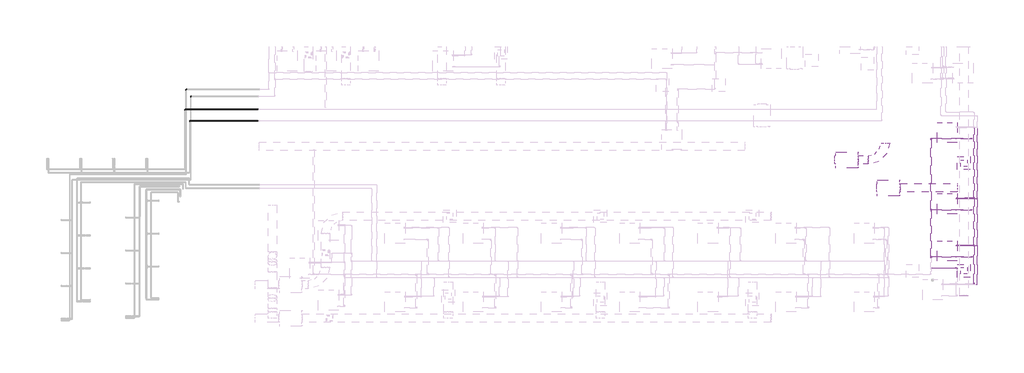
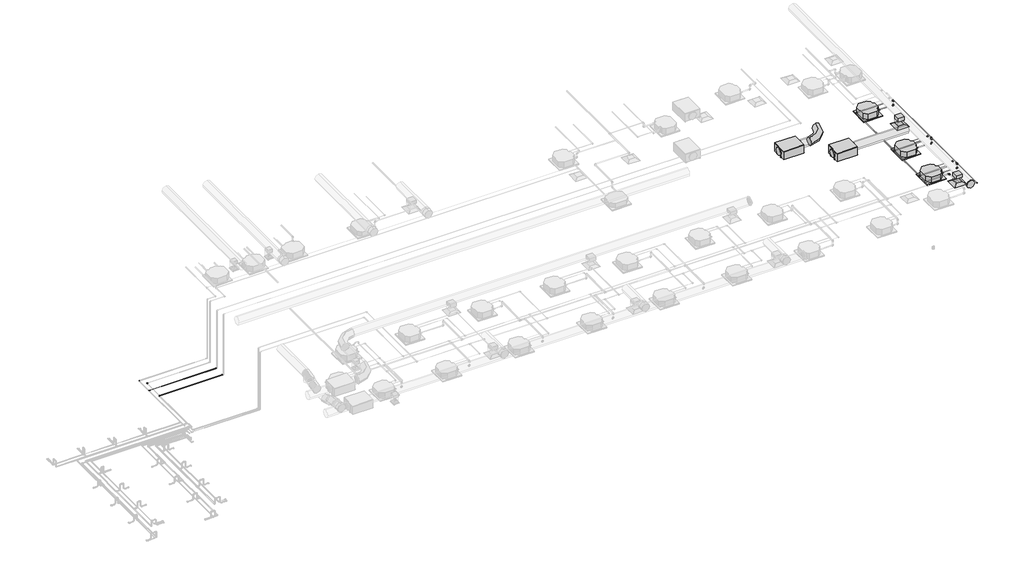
# One storey, part 12 of 22: 30 pipe fittings, 24 pipe segments, 5 proxies, 4 duct fittings, 4 duct segments, 2 air terminals.
"""IFC4 building model written with IfcOpenShell, lengths in millimetres."""

from ifc_helpers import new_model, si_unit, point, frame, frame_2d, origin, place, context, project, spatial, polyline, circle_curve, trimmed, segment, composite_curve, outline, extrude, transform, mapped, element, save
from ifc_brep_helpers import plane_surface, cylinder_surface, advanced_brep
from components import air_terminal_ff221211, mechanical_equipment_53173f38, fh_fh_400_6e0c7af0, duct_fitting_95c1ddea, duct_fitting_2_d_33ab650d, m_capa_de_extremidade_redonda_c14c7098, pipe_fitting_144f4440, pipe_fitting_14eb6376, pipe_fitting_337ff715, pipe_fitting_8af41acb, pipe_fitting_16c020f5, pipe_fitting_0e110a5f, pipe_fitting_afe73776, pipe_fitting_09966660, pipe_fitting_64d0e8e9, pipe_fitting_501e5992, pipe_fitting_648138cd, pipe_fitting_58ab9b66, pipe_fitting_da16c1b3, pipe_fitting_af483176, pipe_fitting_5a6d96d3, pipe_fitting_3e80353c

model = new_model("IFC4")

# Units and contexts
model_context = context("Model", 3, world=origin())
ifc_project = project(units=[si_unit("LENGTHUNIT", "METRE", prefix="MILLI")], contexts=[model_context])

# Site, building, storey
site = spatial("IfcSite", under=ifc_project)
building = spatial("IfcBuilding", under=site)
storey = spatial("IfcBuildingStorey", under=building, Name="Nível 2", Elevation=3880.0)

# Air terminals
placement = place(None, origin())
air_terminal_shape = air_terminal_ff221211(model_context)
element("IfcAirTerminal", 1, ObjectType="M_Difusor de fornecimento : 600 x 600 Face 300 x 300 Conexão", at=placement, inside=storey, context=model_context, shape_type="MappedRepresentation", body=[
    mapped(air_terminal_shape, transform((30114.7064473, -1509.3889752, 6880.0), x_axis=(-1.0, 0.0, 0.0), y_axis=(0.0, -1.0, 0.0), z_axis=(0.0, 0.0, 1.0))),
])
element("IfcAirTerminal", 2, ObjectType="M_Difusor de fornecimento : 600 x 600 Face 300 x 300 Conexão", at=placement, inside=storey, context=model_context, shape_type="MappedRepresentation", body=[
    mapped(air_terminal_shape, transform((30114.7064473, -6543.2709697, 6880.0), x_axis=(-1.0, 0.0, 0.0), y_axis=(0.0, -1.0, 0.0), z_axis=(0.0, 0.0, 1.0))),
])

# Proxies
mechanical_equipment_shape = mechanical_equipment_53173f38(model_context)
element("IfcBuildingElementProxy", 3, Name="Midea_VRF_Indoor_4-way Cassette_MI-90(100,112,140)Q4_DHN1-D (2nd DC) : MI2-140Q4DHN1", ObjectType="Midea_VRF_Indoor_4-way Cassette_MI-90(100,112,140)Q4_DHN1-D (2nd DC) : MI2-140Q4DHN1", at=placement, inside=storey, context=model_context, shape_type="MappedRepresentation", body=[
    mapped(mechanical_equipment_shape, transform((29341.0098465, -77.1631352, 6880.0), x_axis=(1.0, 0.0, 0.0), y_axis=(0.0, 1.0, 0.0), z_axis=(0.0, 0.0, 1.0))),
])
element("IfcBuildingElementProxy", 4, Name="Midea_VRF_Indoor_4-way Cassette_MI-90(100,112,140)Q4_DHN1-D (2nd DC) : MI2-140Q4DHN1", ObjectType="Midea_VRF_Indoor_4-way Cassette_MI-90(100,112,140)Q4_DHN1-D (2nd DC) : MI2-140Q4DHN1", at=placement, inside=storey, context=model_context, shape_type="MappedRepresentation", body=[
    mapped(mechanical_equipment_shape, transform((29341.0098465, -3411.9719758, 6880.0), x_axis=(1.0, 0.0, 0.0), y_axis=(0.0, 1.0, 0.0), z_axis=(0.0, 0.0, 1.0))),
])
element("IfcBuildingElementProxy", 5, Name="Midea_VRF_Indoor_4-way Cassette_MI-90(100,112,140)Q4_DHN1-D (2nd DC) : MI2-140Q4DHN1", ObjectType="Midea_VRF_Indoor_4-way Cassette_MI-90(100,112,140)Q4_DHN1-D (2nd DC) : MI2-140Q4DHN1", at=placement, inside=storey, context=model_context, shape_type="MappedRepresentation", body=[
    mapped(mechanical_equipment_shape, transform((29341.0098465, -5613.3895801, 6880.0), x_axis=(1.0, 0.0, 0.0), y_axis=(0.0, 1.0, 0.0), z_axis=(0.0, 0.0, 1.0))),
])
fh_fh_400_shape = fh_fh_400_6e0c7af0(model_context)
element("IfcBuildingElementProxy", 6, Name="FH : FH 400", ObjectType="FH : FH 400", at=placement, inside=storey, context=model_context, shape_type="MappedRepresentation", body=[
    mapped(fh_fh_400_shape, transform((26591.3682756, -2666.746009, 7280.0), x_axis=(0.0, 1.0, 0.0), y_axis=(-1.0, 0.0, 0.0), z_axis=(0.0, 0.0, 1.0))),
])
element("IfcBuildingElementProxy", 7, Name="FH : FH 400", ObjectType="FH : FH 400", at=placement, inside=storey, context=model_context, shape_type="MappedRepresentation", body=[
    mapped(fh_fh_400_shape, transform((24641.2077756, -1359.3889752, 7280.0), x_axis=(0.0, 1.0, 0.0), y_axis=(-1.0, 0.0, 0.0), z_axis=(0.0, 0.0, 1.0))),
])

# Duct fittings
duct_fitting_shape = duct_fitting_95c1ddea(model_context)
element("IfcDuctFitting", 8, ObjectType="M_Encaixe de duto retangular : Padrão", at=placement, inside=storey, context=model_context, shape_type="MappedRepresentation", body=[
    mapped(duct_fitting_shape, transform((30114.7064473, -1509.3889752, 7301.0), x_axis=(0.0, 0.0, -1.0), y_axis=(0.0, 1.0, 0.0), z_axis=(1.0, 0.0, 0.0))),
])
element("IfcDuctFitting", 9, ObjectType="M_Encaixe de duto retangular : Padrão", at=placement, inside=storey, context=model_context, shape_type="MappedRepresentation", body=[
    mapped(duct_fitting_shape, transform((30114.7064473, -6543.2709697, 7301.0), x_axis=(0.0, 0.0, -1.0), y_axis=(0.0, 1.0, 0.0), z_axis=(1.0, 0.0, 0.0))),
])
duct_fitting_2_d_shape = duct_fitting_2_d_33ab650d(model_context)
element("IfcDuctFitting", 10, ObjectType="M_Cotovelo redondo : 2 D", at=placement, inside=storey, context=model_context, shape_type="MappedRepresentation", body=[
    mapped(duct_fitting_2_d_shape, transform((26448.2077756, -1359.3889752, 7501.0), x_axis=(1.0, 0.0, 0.0), y_axis=(0.0, 1.0, 0.0), z_axis=(0.0, 0.0, 1.0))),
])
m_capa_de_extremidade_redonda_shape = m_capa_de_extremidade_redonda_c14c7098(model_context)
element("IfcDuctFitting", 11, ObjectType="M_Capa de extremidade redonda : Padrão", at=placement, inside=storey, context=model_context, shape_type="MappedRepresentation", body=[
    mapped(m_capa_de_extremidade_redonda_shape, transform((30114.7064473, -7683.3010158, 7501.0), x_axis=(0.0, -1.0, 0.0), y_axis=(1.0, 0.0, 0.0), z_axis=(0.0, 0.0, 1.0))),
])

# Duct segments
element("IfcDuctSegment", 12, ObjectType="Torneiras / Raio curto", at=placement, inside=storey, context=model_context, shape_type="SweptSolid", body=[
    extrude(outline(composite_curve([segment(trimmed(circle_curve(frame_2d((-2666.746009, 7501.0)), 200.0), [point((-2866.746009, 7501.0))], [point((-2666.746009, 7701.0))], False, "CARTESIAN"), True, "CONTINUOUS"), segment(trimmed(circle_curve(frame_2d((-2666.746009, 7501.0)), 200.0), [point((-2666.746009, 7701.0))], [point((-2466.746009, 7501.0))], False, "CARTESIAN"), True, "CONTINUOUS"), segment(trimmed(circle_curve(frame_2d((-2666.746009, 7501.0)), 200.0), [point((-2466.746009, 7501.0))], [point((-2666.746009, 7301.0))], False, "CARTESIAN"), True, "CONTINUOUS"), segment(trimmed(circle_curve(frame_2d((-2666.746009, 7501.0)), 200.0), [point((-2666.746009, 7301.0))], [point((-2866.746009, 7501.0))], False, "CARTESIAN"), True, "CONTINUOUS")], self_intersect=False)), frame((27138.3682756, 0.0, 0.0), z_axis=(1.0, 0.0, 0.0), x_axis=(0.0, 1.0, 0.0)), (0.0, 0.0, 1.0), 2674.7381717),
])
element("IfcDuctSegment", 13, ObjectType="Raios cotovelos / torneiras", at=placement, inside=storey, context=model_context, shape_type="SweptSolid", body=[
    extrude(outline(polyline([(29964.7064473, -1659.3889752), (29964.7064473, -1359.3889752), (30264.7064473, -1359.3889752), (30264.7064473, -1659.3889752), (29964.7064473, -1659.3889752)])), frame((0.0, 0.0, 6981.6), z_axis=(0.0, 0.0, 1.0), x_axis=(1.0, 0.0, 0.0)), (0.0, 0.0, 1.0), 217.8),
])
element("IfcDuctSegment", 14, ObjectType="Raios cotovelos / torneiras", at=placement, inside=storey, context=model_context, shape_type="SweptSolid", body=[
    extrude(outline(polyline([(29964.7064473, -6693.2709697), (29964.7064473, -6393.2709697), (30264.7064473, -6393.2709697), (30264.7064473, -6693.2709697), (29964.7064473, -6693.2709697)])), frame((0.0, 0.0, 6981.6), z_axis=(0.0, 0.0, 1.0), x_axis=(1.0, 0.0, 0.0)), (0.0, 0.0, 1.0), 217.8),
])
element("IfcDuctSegment", 15, ObjectType="Torneiras / Raio curto", at=placement, inside=storey, context=model_context, shape_type="SweptSolid", body=[
    extrude(outline(composite_curve([segment(trimmed(circle_curve(frame_2d((-1359.3889752, 7501.0)), 200.0), [point((-1559.3889752, 7501.0))], [point((-1359.3889752, 7701.0))], False, "CARTESIAN"), True, "CONTINUOUS"), segment(trimmed(circle_curve(frame_2d((-1359.3889752, 7501.0)), 200.0), [point((-1359.3889752, 7701.0))], [point((-1159.3889752, 7501.0))], False, "CARTESIAN"), True, "CONTINUOUS"), segment(trimmed(circle_curve(frame_2d((-1359.3889752, 7501.0)), 200.0), [point((-1159.3889752, 7501.0))], [point((-1359.3889752, 7301.0))], False, "CARTESIAN"), True, "CONTINUOUS"), segment(trimmed(circle_curve(frame_2d((-1359.3889752, 7501.0)), 200.0), [point((-1359.3889752, 7301.0))], [point((-1559.3889752, 7501.0))], False, "CARTESIAN"), True, "CONTINUOUS")], self_intersect=False)), frame((25188.2077756, 0.0, 0.0), z_axis=(1.0, 0.0, 0.0), x_axis=(0.0, 1.0, 0.0)), (0.0, 0.0, 1.0), 460.0),
])

# Pipe fittings
pipe_fitting_shape = pipe_fitting_144f4440(model_context)
element("IfcPipeFitting", 16, ObjectType="Cotovelo - PVC - CW : Padrão", at=placement, inside=storey, context=model_context, shape_type="MappedRepresentation", body=[
    mapped(pipe_fitting_shape, transform((30466.0098464, -362.1631352, 7380.0), x_axis=(0.0, 0.0, 1.0), y_axis=(-1.0, 0.0, 0.0), z_axis=(0.0, -1.0, 0.0))),
])
element("IfcPipeFitting", 17, ObjectType="Cotovelo - PVC - CW : Padrão", at=placement, inside=storey, context=model_context, shape_type="MappedRepresentation", body=[
    mapped(pipe_fitting_shape, transform((28580.398304, -362.1631352, 7380.0), x_axis=(-1.0, 0.0, 0.0), y_axis=(0.0, -1.0, 0.0), z_axis=(0.0, 0.0, 1.0))),
])
element("IfcPipeFitting", 18, ObjectType="Cotovelo - PVC - CW : Padrão", at=placement, inside=storey, context=model_context, shape_type="MappedRepresentation", body=[
    mapped(pipe_fitting_shape, transform((29786.1108591, -6418.2885675, 7380.0), x_axis=(0.0, 1.0, 0.0), y_axis=(-1.0, 0.0, 0.0), z_axis=(0.0, 0.0, 1.0))),
])
element("IfcPipeFitting", 19, ObjectType="Cotovelo - PVC - CW : Padrão", at=placement, inside=storey, context=model_context, shape_type="MappedRepresentation", body=[
    mapped(pipe_fitting_shape, transform((30466.0098464, -3696.9719758, 7380.0), x_axis=(0.0, 0.0, 1.0), y_axis=(-1.0, 0.0, 0.0), z_axis=(0.0, -1.0, 0.0))),
])
element("IfcPipeFitting", 20, ObjectType="Cotovelo - PVC - CW : Padrão", at=placement, inside=storey, context=model_context, shape_type="MappedRepresentation", body=[
    mapped(pipe_fitting_shape, transform((30486.0098464, -5898.3895801, 7380.0), x_axis=(0.0, 0.0, 1.0), y_axis=(-1.0, 0.0, 0.0), z_axis=(0.0, -1.0, 0.0))),
])
pipe_fitting_2_shape = pipe_fitting_14eb6376(model_context)
element("IfcPipeFitting", 21, ObjectType="Tê de redução - PVC - CW : Padrão", at=placement, inside=storey, context=model_context, shape_type="MappedRepresentation", body=[
    mapped(pipe_fitting_2_shape, transform((28580.398304, -3696.9719758, 7380.0), x_axis=(0.0, -1.0, 0.0), y_axis=(-1.0, 0.0, 0.0), z_axis=(0.0, 0.0, -1.0))),
])
element("IfcPipeFitting", 22, ObjectType="Tê de redução - PVC - CW : Padrão", at=placement, inside=storey, context=model_context, shape_type="MappedRepresentation", body=[
    mapped(pipe_fitting_2_shape, transform((28580.398304, -5898.3895801, 7380.0), x_axis=(0.0, -1.0, 0.0), y_axis=(-1.0, 0.0, 0.0), z_axis=(0.0, 0.0, -1.0))),
])
pipe_fitting_3_shape = pipe_fitting_337ff715(model_context)
element("IfcPipeFitting", 23, ObjectType="Cotovelo - PVC - CW : Padrão", at=placement, inside=storey, context=model_context, shape_type="MappedRepresentation", body=[
    mapped(pipe_fitting_3_shape, transform((30466.0098464, -362.1631352, 7132.3), x_axis=(0.9999999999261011, 0.0, -1.2157218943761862e-05), y_axis=(1.2157218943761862e-05, 0.0, 0.9999999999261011), z_axis=(0.0, -1.0, 0.0))),
])
element("IfcPipeFitting", 24, ObjectType="Cotovelo - PVC - CW : Padrão", at=placement, inside=storey, context=model_context, shape_type="MappedRepresentation", body=[
    mapped(pipe_fitting_3_shape, transform((30466.0098464, -3696.9719758, 7132.3), x_axis=(0.9999999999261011, 0.0, -1.2157218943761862e-05), y_axis=(1.2157218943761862e-05, 0.0, 0.9999999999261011), z_axis=(0.0, -1.0, 0.0))),
])
pipe_fitting_4_shape = pipe_fitting_8af41acb(model_context)
element("IfcPipeFitting", 25, ObjectType="Cotovelo - PVC - CW : Padrão", at=placement, inside=storey, context=model_context, shape_type="MappedRepresentation", body=[
    mapped(pipe_fitting_4_shape, transform((30486.0098464, -5898.3895801, 7132.3), x_axis=(0.9999999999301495, 0.0, -1.181951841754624e-05), y_axis=(1.181951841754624e-05, 0.0, 0.9999999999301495), z_axis=(0.0, -1.0, 0.0))),
])
pipe_fitting_5_shape = pipe_fitting_16c020f5(model_context)
element("IfcPipeFitting", 26, ObjectType="Cotovelo - Soldado - CU : Padrão", at=placement, inside=storey, context=model_context, shape_type="MappedRepresentation", body=[
    mapped(pipe_fitting_5_shape, transform((30586.1108591, -7160.0777538, 7132.3), x_axis=(0.9999999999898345, 0.0, -4.509017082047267e-06), y_axis=(0.0, 1.0000000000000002, 0.0), z_axis=(4.509017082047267e-06, 0.0, 0.9999999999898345))),
])
pipe_fitting_6_shape = pipe_fitting_0e110a5f(model_context)
element("IfcPipeFitting", 27, ObjectType="Cotovelo - Soldado - CU : Padrão", at=placement, inside=storey, context=model_context, shape_type="MappedRepresentation", body=[
    mapped(pipe_fitting_6_shape, transform((-6053.8891409, 473.4586233, 3918.9), x_axis=(-1.0, 0.0, 0.0), y_axis=(0.0, -1.0, 0.0), z_axis=(0.0, 0.0, 1.0))),
])
element("IfcPipeFitting", 28, ObjectType="Cotovelo - Soldado - CU : Padrão", at=placement, inside=storey, context=model_context, shape_type="MappedRepresentation", body=[
    mapped(pipe_fitting_6_shape, transform((-6008.3914151, 1620.03247, 3880.0), x_axis=(-1.0, 0.0, 0.0), y_axis=(0.0, -1.0, 0.0), z_axis=(0.0, 0.0, 1.0))),
])
pipe_fitting_7_shape = pipe_fitting_afe73776(model_context)
element("IfcPipeFitting", 29, ObjectType="Bucha de redução reta - Soldada - CU : Padrão", at=placement, inside=storey, context=model_context, shape_type="MappedRepresentation", body=[
    mapped(pipe_fitting_7_shape, transform((30555.9503588, -3138.7611622, 7132.2872892), x_axis=(-0.9999999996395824, 0.0, 2.68483792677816e-05), y_axis=(0.0, -1.0000000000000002, 0.0), z_axis=(2.68483792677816e-05, 0.0, 0.9999999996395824))),
])
element("IfcPipeFitting", 30, ObjectType="Bucha de redução reta - Soldada - CU : Padrão", at=placement, inside=storey, context=model_context, shape_type="MappedRepresentation", body=[
    mapped(pipe_fitting_7_shape, transform((30555.9503592, -5340.1787665, 7132.3008098), x_axis=(-0.9999999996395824, 0.0, 2.68483792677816e-05), y_axis=(0.0, -1.0000000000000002, 0.0), z_axis=(2.68483792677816e-05, 0.0, 0.9999999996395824))),
])
pipe_fitting_8_shape = pipe_fitting_09966660(model_context)
element("IfcPipeFitting", 31, ObjectType="Tê - Soldado - CU : Padrão", at=placement, inside=storey, context=model_context, shape_type="MappedRepresentation", body=[
    mapped(pipe_fitting_8_shape, transform((30586.1108588, -3138.7611622, 7132.2864794), x_axis=(0.0, -1.0, 0.0), y_axis=(0.9999999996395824, 0.0, -2.68483792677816e-05), z_axis=(2.68483792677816e-05, 0.0, 0.9999999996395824))),
])
element("IfcPipeFitting", 32, ObjectType="Tê - Soldado - CU : Padrão", at=placement, inside=storey, context=model_context, shape_type="MappedRepresentation", body=[
    mapped(pipe_fitting_8_shape, transform((30586.1108591, -5340.1787665, 7132.3), x_axis=(0.0, -1.0, 0.0), y_axis=(0.9999999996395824, 0.0, -2.68483792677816e-05), z_axis=(2.68483792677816e-05, 0.0, 0.9999999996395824))),
])
pipe_fitting_9_shape = pipe_fitting_64d0e8e9(model_context)
element("IfcPipeFitting", 33, ObjectType="Bucha de redução reta - Soldada - CU : Padrão", at=placement, inside=storey, context=model_context, shape_type="MappedRepresentation", body=[
    mapped(pipe_fitting_9_shape, transform((30586.1108591, -7131.0991538, 7132.3), x_axis=(0.0, 1.0, 0.0), y_axis=(-0.9999999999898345, 0.0, 4.509017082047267e-06), z_axis=(4.509017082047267e-06, 0.0, 0.9999999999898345))),
])
pipe_fitting_10_shape = pipe_fitting_501e5992(model_context)
element("IfcPipeFitting", 34, ObjectType="Bucha de redução reta - Soldada - CU : Padrão", at=placement, inside=storey, context=model_context, shape_type="MappedRepresentation", body=[
    mapped(pipe_fitting_10_shape, transform((29778.6687465, -3138.7611622, 7132.3081579), x_axis=(-0.9999999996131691, 0.0, 2.7814777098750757e-05), y_axis=(0.0, -1.0, 0.0), z_axis=(2.7814777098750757e-05, 0.0, 0.9999999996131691))),
])
element("IfcPipeFitting", 35, ObjectType="Bucha de redução reta - Soldada - CU : Padrão", at=placement, inside=storey, context=model_context, shape_type="MappedRepresentation", body=[
    mapped(pipe_fitting_10_shape, transform((29778.6687465, -5340.1787665, 7132.3081579), x_axis=(-0.9999999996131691, 0.0, 2.7814777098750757e-05), y_axis=(0.0, -1.0, 0.0), z_axis=(2.7814777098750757e-05, 0.0, 0.9999999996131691))),
])
pipe_fitting_11_shape = pipe_fitting_648138cd(model_context)
element("IfcPipeFitting", 36, ObjectType="Cotovelo - Soldado - CU : Padrão", at=placement, inside=storey, context=model_context, shape_type="MappedRepresentation", body=[
    mapped(pipe_fitting_11_shape, transform((30746.1108592, -7193.8801956, 7026.8446487), x_axis=(1.0, 0.0, 0.0), y_axis=(0.0, 1.0, 0.0), z_axis=(0.0, 0.0, 1.0))),
])
pipe_fitting_12_shape = pipe_fitting_58ab9b66(model_context)
element("IfcPipeFitting", 37, ObjectType="Bucha de redução reta - Soldada - CU : Padrão", at=placement, inside=storey, context=model_context, shape_type="MappedRepresentation", body=[
    mapped(pipe_fitting_12_shape, transform((29775.6842465, -5373.9812083, 7026.8446487), x_axis=(-1.0, 0.0, 0.0), y_axis=(0.0, -1.0, 0.0), z_axis=(0.0, 0.0, 1.0))),
])
element("IfcPipeFitting", 38, ObjectType="Bucha de redução reta - Soldada - CU : Padrão", at=placement, inside=storey, context=model_context, shape_type="MappedRepresentation", body=[
    mapped(pipe_fitting_12_shape, transform((29775.6842465, -3172.563604, 7026.8446487), x_axis=(-1.0, 0.0, 0.0), y_axis=(0.0, -1.0, 0.0), z_axis=(0.0, 0.0, 1.0))),
])
pipe_fitting_13_shape = pipe_fitting_da16c1b3(model_context)
element("IfcPipeFitting", 39, ObjectType="Tê - Soldado - CU : Padrão", at=placement, inside=storey, context=model_context, shape_type="MappedRepresentation", body=[
    mapped(pipe_fitting_13_shape, transform((30746.1108592, -5373.9812083, 7026.8446487), x_axis=(0.0, -1.0, 0.0), y_axis=(1.0, 0.0, 0.0), z_axis=(0.0, 0.0, 1.0))),
])
element("IfcPipeFitting", 40, ObjectType="Tê - Soldado - CU : Padrão", at=placement, inside=storey, context=model_context, shape_type="MappedRepresentation", body=[
    mapped(pipe_fitting_13_shape, transform((30746.1108592, -3172.563604, 7026.8446487), x_axis=(0.0, -1.0, 0.0), y_axis=(1.0, 0.0, 0.0), z_axis=(0.0, 0.0, 1.0))),
])
pipe_fitting_14_shape = pipe_fitting_af483176(model_context)
element("IfcPipeFitting", 41, ObjectType="Bucha de redução reta - Soldada - CU : Padrão", at=placement, inside=storey, context=model_context, shape_type="MappedRepresentation", body=[
    mapped(pipe_fitting_14_shape, transform((30746.1108592, -7169.8545956, 7026.8446487), x_axis=(0.0, 1.0, 0.0), y_axis=(-1.0, 0.0, 0.0), z_axis=(0.0, 0.0, 1.0))),
])
pipe_fitting_15_shape = pipe_fitting_5a6d96d3(model_context)
element("IfcPipeFitting", 42, ObjectType="Bucha de redução reta - Soldada - CU : Padrão", at=placement, inside=storey, context=model_context, shape_type="MappedRepresentation", body=[
    mapped(pipe_fitting_15_shape, transform((30721.0938592, -5373.9812083, 7026.8446487), x_axis=(-1.0, 0.0, 0.0), y_axis=(0.0, -1.0, 0.0), z_axis=(0.0, 0.0, 1.0))),
])
element("IfcPipeFitting", 43, ObjectType="Bucha de redução reta - Soldada - CU : Padrão", at=placement, inside=storey, context=model_context, shape_type="MappedRepresentation", body=[
    mapped(pipe_fitting_15_shape, transform((30721.0938592, -3172.563604, 7026.8446487), x_axis=(-1.0, 0.0, 0.0), y_axis=(0.0, -1.0, 0.0), z_axis=(0.0, 0.0, 1.0))),
])
pipe_fitting_16_shape = pipe_fitting_3e80353c(model_context)
element("IfcPipeFitting", 44, ObjectType="Cotovelo - Soldado - CU : Padrão", at=placement, inside=storey, context=model_context, shape_type="MappedRepresentation", body=[
    mapped(pipe_fitting_16_shape, transform((-6278.8891408, 1004.7679315, 3954.6), x_axis=(-1.0, 0.0, 0.0), y_axis=(0.0, -1.0, 0.0), z_axis=(0.0, 0.0, 1.0))),
])
element("IfcPipeFitting", 45, ObjectType="Cotovelo - Soldado - CU : Padrão", at=placement, inside=storey, context=model_context, shape_type="MappedRepresentation", body=[
    mapped(pipe_fitting_16_shape, transform((-6224.6914695, 1943.0785153, 3880.0), x_axis=(-1.0, 0.0, 0.0), y_axis=(0.0, -1.0, 0.0), z_axis=(0.0, 0.0, 1.0))),
])

# Pipe segments
element("IfcPipeSegment", 46, ObjectType="Tubos de cobre HVAC", at=placement, inside=storey, context=model_context, shape_type="AdvancedBrep", body=[
    advanced_brep(
    [(30595.6358588, -3108.5659122, 7132.2864794), (30586.1108588, -3108.5659515, 7141.8114794), (30576.5858588, -3108.5659122, 7132.2864794), (30586.1108588, -3108.5658728, 7122.7614794), (30595.6358591, 165.8524284, 7132.3), (30586.1108591, 165.8524678, 7122.775), (30576.5858591, 165.8524284, 7132.3), (30586.1108591, 165.8523891, 7141.825)],
    [
        (0, 1, circle_curve(frame((30586.1108588, -3108.5659122, 7132.2864794), z_axis=(0.0, -0.999999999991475, -4.129149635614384e-06), x_axis=(1.0, 0.0, 0.0)), 9.525)),
        (1, 2, circle_curve(frame((30586.1108588, -3108.5659122, 7132.2864794), z_axis=(0.0, -0.999999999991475, -4.129149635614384e-06), x_axis=(1.0, 0.0, 0.0)), 9.525)),
        (2, 3, circle_curve(frame((30586.1108588, -3108.5659122, 7132.2864794), z_axis=(0.0, -0.999999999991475, -4.129149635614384e-06), x_axis=(1.0, 0.0, 0.0)), 9.525)),
        (3, 0, circle_curve(frame((30586.1108588, -3108.5659122, 7132.2864794), z_axis=(0.0, -0.999999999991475, -4.129149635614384e-06), x_axis=(1.0, 0.0, 0.0)), 9.525)),
        (4, 5, circle_curve(frame((30586.1108588, 165.8524284, 7132.3), z_axis=(0.0, 0.999999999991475, 4.129149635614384e-06), x_axis=(1.0, 0.0, 0.0)), 9.5250004)),
        (5, 6, circle_curve(frame((30586.1108588, 165.8524284, 7132.3), z_axis=(0.0, 0.999999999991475, 4.129149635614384e-06), x_axis=(1.0, 0.0, 0.0)), 9.525)),
        (6, 7, circle_curve(frame((30586.1108588, 165.8524284, 7132.3), z_axis=(0.0, 0.999999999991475, 4.129149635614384e-06), x_axis=(1.0, 0.0, 0.0)), 9.5249996)),
        (7, 4, circle_curve(frame((30586.1108588, 165.8524284, 7132.3), z_axis=(0.0, 0.999999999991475, 4.129149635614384e-06), x_axis=(1.0, 0.0, 0.0)), 9.525)),
        (0, 4),
        (7, 1),
        (6, 2),
        (5, 3),
    ],
    [
        plane_surface(frame((30576.5858588, -3108.5659122, 7132.2864794), z_axis=(-1.1087308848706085e-10, -0.999999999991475, -4.129149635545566e-06), x_axis=(0.0, -4.129149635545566e-06, 0.999999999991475))),
        plane_surface(frame((30576.5858591, 165.8524284, 7132.3), z_axis=(1.1086065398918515e-10, 0.999999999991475, 4.129149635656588e-06), x_axis=(0.0, -4.129149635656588e-06, 0.999999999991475))),
        cylinder_surface(frame((30586.1108588, -3108.5659122, 7132.2864794), z_axis=(0.0, -0.999999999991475, -4.129149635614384e-06), x_axis=(1.0, 0.0, 0.0)), 9.525),
    ],
    [
        (0, [[1, 2, 3, 4]]),
        (1, [[5, 6, 7, 8]]),
        (2, [[-1, 9, -8, 10]]),
        (2, [[-2, -10, -7, 11]]),
        (2, [[-3, -11, -6, 12]]),
        (2, [[-4, -12, -5, -9]]),
    ],
),
])
element("IfcPipeSegment", 47, ObjectType="Tubos de cobre HVAC", at=placement, inside=storey, context=model_context, shape_type="SweptSolid", body=[
    extrude(outline(composite_curve([segment(trimmed(circle_curve(frame_2d((0.0, 7.935)), 7.935), [point((-7.935, 7.935))], [point((0.0, 15.87))], False, "CARTESIAN"), True, "CONTINUOUS"), segment(trimmed(circle_curve(frame_2d((0.0, 7.935)), 7.935), [point((0.0, 15.87))], [point((7.935, 7.935))], False, "CARTESIAN"), True, "CONTINUOUS"), segment(trimmed(circle_curve(frame_2d((0.0, 7.935)), 7.935), [point((7.935, 7.935))], [point((0.0, 0.0))], False, "CARTESIAN"), True, "CONTINUOUS"), segment(trimmed(circle_curve(frame_2d((0.0, 7.935)), 7.935), [point((0.0, 0.0))], [point((-7.935, 7.935))], False, "CARTESIAN"), True, "CONTINUOUS")], self_intersect=False)), frame((30543.2912458, -3138.7611622, 7124.3526291), z_axis=(-0.9999999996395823, 0.0, 2.6848379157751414e-05), x_axis=(0.0, -1.0, 0.0)), (0.0, 0.0, 1.0), 764.6227126),
])
element("IfcPipeSegment", 48, ObjectType="Tubos de cobre HVAC", at=placement, inside=storey, context=model_context, shape_type="AdvancedBrep", body=[
    advanced_brep(
    [(30595.6358591, -5309.9835165, 7132.3), (30586.1108591, -5309.9834563, 7141.825), (30576.5858591, -5309.9835165, 7132.3), (30586.1108591, -5309.9835766, 7122.775), (30595.6358588, -3168.9564122, 7132.2864794), (30586.1108588, -3168.9564723, 7122.7614794), (30576.5858588, -3168.9564122, 7132.2864794), (30586.1108588, -3168.956352, 7141.8114794)],
    [
        (0, 1, circle_curve(frame((30586.1108591, -5309.9835165, 7132.3), z_axis=(0.0, -0.9999999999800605, 6.314989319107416e-06), x_axis=(1.0, 0.0, 0.0)), 9.525)),
        (1, 2, circle_curve(frame((30586.1108591, -5309.9835165, 7132.3), z_axis=(0.0, -0.9999999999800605, 6.314989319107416e-06), x_axis=(1.0, 0.0, 0.0)), 9.525)),
        (2, 3, circle_curve(frame((30586.1108591, -5309.9835165, 7132.3), z_axis=(0.0, -0.9999999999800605, 6.314989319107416e-06), x_axis=(1.0, 0.0, 0.0)), 9.525)),
        (3, 0, circle_curve(frame((30586.1108591, -5309.9835165, 7132.3), z_axis=(0.0, -0.9999999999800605, 6.314989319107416e-06), x_axis=(1.0, 0.0, 0.0)), 9.525)),
        (4, 5, circle_curve(frame((30586.1108591, -3168.9564122, 7132.2864794), z_axis=(0.0, 0.9999999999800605, -6.314989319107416e-06), x_axis=(1.0, 0.0, 0.0)), 9.5249996)),
        (5, 6, circle_curve(frame((30586.1108591, -3168.9564122, 7132.2864794), z_axis=(0.0, 0.9999999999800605, -6.314989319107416e-06), x_axis=(1.0, 0.0, 0.0)), 9.525)),
        (6, 7, circle_curve(frame((30586.1108591, -3168.9564122, 7132.2864794), z_axis=(0.0, 0.9999999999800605, -6.314989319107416e-06), x_axis=(1.0, 0.0, 0.0)), 9.5250004)),
        (7, 4, circle_curve(frame((30586.1108591, -3168.9564122, 7132.2864794), z_axis=(0.0, 0.9999999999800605, -6.314989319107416e-06), x_axis=(1.0, 0.0, 0.0)), 9.525)),
        (0, 4),
        (7, 1),
        (6, 2),
        (5, 3),
    ],
    [
        plane_surface(frame((30576.5858591, -5309.9835165, 7132.3), z_axis=(1.6956391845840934e-10, -0.9999999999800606, 6.3149893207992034e-06), x_axis=(0.0, 6.3149893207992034e-06, 0.9999999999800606))),
        plane_surface(frame((30576.5858588, -3168.9564122, 7132.2864794), z_axis=(-1.695354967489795e-10, 0.9999999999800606, -6.314989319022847e-06), x_axis=(0.0, 6.314989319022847e-06, 0.9999999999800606))),
        cylinder_surface(frame((30586.1108591, -5309.9835165, 7132.3), z_axis=(0.0, -0.9999999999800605, 6.314989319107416e-06), x_axis=(1.0, 0.0, 0.0)), 9.525),
    ],
    [
        (0, [[1, 2, 3, 4]]),
        (1, [[5, 6, 7, 8]]),
        (2, [[-1, 9, -8, 10]]),
        (2, [[-2, -10, -7, 11]]),
        (2, [[-3, -11, -6, 12]]),
        (2, [[-4, -12, -5, -9]]),
    ],
),
])
element("IfcPipeSegment", 49, ObjectType="Tubos de cobre HVAC", at=placement, inside=storey, context=model_context, shape_type="SweptSolid", body=[
    extrude(outline(composite_curve([segment(trimmed(circle_curve(frame_2d((0.0, 7.935)), 7.935), [point((-7.935, 7.935))], [point((0.0, 15.87))], False, "CARTESIAN"), True, "CONTINUOUS"), segment(trimmed(circle_curve(frame_2d((0.0, 7.935)), 7.935), [point((0.0, 15.87))], [point((7.935, 7.935))], False, "CARTESIAN"), True, "CONTINUOUS"), segment(trimmed(circle_curve(frame_2d((0.0, 7.935)), 7.935), [point((7.935, 7.935))], [point((0.0, 0.0))], False, "CARTESIAN"), True, "CONTINUOUS"), segment(trimmed(circle_curve(frame_2d((0.0, 7.935)), 7.935), [point((0.0, 0.0))], [point((-7.935, 7.935))], False, "CARTESIAN"), True, "CONTINUOUS")], self_intersect=False)), frame((30543.2913864, -5340.1787665, 7124.3661496), z_axis=(-0.9999999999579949, 0.0, 9.165719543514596e-06), x_axis=(0.0, -1.0, 0.0)), (0.0, 0.0, 1.0), 764.6227127),
])
element("IfcPipeSegment", 50, ObjectType="Tubos de cobre HVAC", at=placement, inside=storey, context=model_context, shape_type="SweptSolid", body=[
    extrude(outline(composite_curve([segment(trimmed(circle_curve(frame_2d((7132.3, 30586.1108591)), 9.525), [point((7132.3, 30595.6358591))], [point((7141.825, 30586.1108591))], False, "CARTESIAN"), True, "CONTINUOUS"), segment(trimmed(circle_curve(frame_2d((7132.3, 30586.1108591)), 9.525), [point((7141.825, 30586.1108591))], [point((7132.3, 30576.5858591))], False, "CARTESIAN"), True, "CONTINUOUS"), segment(trimmed(circle_curve(frame_2d((7132.3, 30586.1108591)), 9.525), [point((7132.3, 30576.5858591))], [point((7122.775, 30586.1108591))], False, "CARTESIAN"), True, "CONTINUOUS"), segment(trimmed(circle_curve(frame_2d((7132.3, 30586.1108591)), 9.525), [point((7122.775, 30586.1108591))], [point((7132.3, 30595.6358591))], False, "CARTESIAN"), True, "CONTINUOUS")], self_intersect=False)), frame((0.0, -7118.4402538, 0.0), z_axis=(0.0, 1.0, 0.0), x_axis=(0.0, 0.0, 1.0)), (0.0, 0.0, 1.0), 1748.0662373),
])
element("IfcPipeSegment", 51, ObjectType="Tubos de cobre HVAC", at=placement, inside=storey, context=model_context, shape_type="SweptSolid", body=[
    extrude(outline(composite_curve([segment(trimmed(circle_curve(frame_2d((-5373.9812083, 7026.8446487)), 4.76), [point((-5369.2212083, 7026.8446487))], [point((-5373.9812083, 7022.0846487))], False, "CARTESIAN"), True, "CONTINUOUS"), segment(trimmed(circle_curve(frame_2d((-5373.9812083, 7026.8446487)), 4.76), [point((-5373.9812083, 7022.0846487))], [point((-5378.7412083, 7026.8446487))], False, "CARTESIAN"), True, "CONTINUOUS"), segment(trimmed(circle_curve(frame_2d((-5373.9812083, 7026.8446487)), 4.76), [point((-5378.7412083, 7026.8446487))], [point((-5373.9812083, 7031.6046487))], False, "CARTESIAN"), True, "CONTINUOUS"), segment(trimmed(circle_curve(frame_2d((-5373.9812083, 7026.8446487)), 4.76), [point((-5373.9812083, 7031.6046487))], [point((-5369.2212083, 7026.8446487))], False, "CARTESIAN"), True, "CONTINUOUS")], self_intersect=False)), frame((29775.6842465, 0.0, 0.0), z_axis=(1.0, 0.0, 0.0), x_axis=(0.0, 1.0, 0.0)), (0.0, 0.0, 1.0), 935.7352127),
])
element("IfcPipeSegment", 52, ObjectType="Tubos de cobre HVAC", at=placement, inside=storey, context=model_context, shape_type="SweptSolid", body=[
    extrude(outline(composite_curve([segment(trimmed(circle_curve(frame_2d((7026.8446487, 30746.1108592)), 6.35), [point((7026.8446487, 30752.4608592))], [point((7033.1946487, 30746.1108592))], False, "CARTESIAN"), True, "CONTINUOUS"), segment(trimmed(circle_curve(frame_2d((7026.8446487, 30746.1108592)), 6.35), [point((7033.1946487, 30746.1108592))], [point((7026.8446487, 30739.7608592))], False, "CARTESIAN"), True, "CONTINUOUS"), segment(trimmed(circle_curve(frame_2d((7026.8446487, 30746.1108592)), 6.35), [point((7026.8446487, 30739.7608592))], [point((7020.4946487, 30746.1108592))], False, "CARTESIAN"), True, "CONTINUOUS"), segment(trimmed(circle_curve(frame_2d((7026.8446487, 30746.1108592)), 6.35), [point((7020.4946487, 30746.1108592))], [point((7026.8446487, 30752.4608592))], False, "CARTESIAN"), True, "CONTINUOUS")], self_intersect=False)), frame((0.0, -7160.1801956, 0.0), z_axis=(0.0, 1.0, 0.0), x_axis=(0.0, 0.0, 1.0)), (0.0, 0.0, 1.0), 1761.1154873),
])
element("IfcPipeSegment", 53, ObjectType="Tubos de cobre HVAC", at=placement, inside=storey, context=model_context, shape_type="SweptSolid", body=[
    extrude(outline(composite_curve([segment(trimmed(circle_curve(frame_2d((-3172.563604, 7026.8446487)), 4.76), [point((-3167.803604, 7026.8446487))], [point((-3172.563604, 7022.0846487))], False, "CARTESIAN"), True, "CONTINUOUS"), segment(trimmed(circle_curve(frame_2d((-3172.563604, 7026.8446487)), 4.76), [point((-3172.563604, 7022.0846487))], [point((-3177.323604, 7026.8446487))], False, "CARTESIAN"), True, "CONTINUOUS"), segment(trimmed(circle_curve(frame_2d((-3172.563604, 7026.8446487)), 4.76), [point((-3177.323604, 7026.8446487))], [point((-3172.563604, 7031.6046487))], False, "CARTESIAN"), True, "CONTINUOUS"), segment(trimmed(circle_curve(frame_2d((-3172.563604, 7026.8446487)), 4.76), [point((-3172.563604, 7031.6046487))], [point((-3167.803604, 7026.8446487))], False, "CARTESIAN"), True, "CONTINUOUS")], self_intersect=False)), frame((29775.6842465, 0.0, 0.0), z_axis=(1.0, 0.0, 0.0), x_axis=(0.0, 1.0, 0.0)), (0.0, 0.0, 1.0), 935.7352127),
])
element("IfcPipeSegment", 54, ObjectType="Tubos de cobre HVAC", at=placement, inside=storey, context=model_context, shape_type="SweptSolid", body=[
    extrude(outline(composite_curve([segment(trimmed(circle_curve(frame_2d((7026.8446487, 30746.1108592)), 6.35), [point((7026.8446487, 30752.4608592))], [point((7033.1946487, 30746.1108592))], False, "CARTESIAN"), True, "CONTINUOUS"), segment(trimmed(circle_curve(frame_2d((7026.8446487, 30746.1108592)), 6.35), [point((7033.1946487, 30746.1108592))], [point((7026.8446487, 30739.7608592))], False, "CARTESIAN"), True, "CONTINUOUS"), segment(trimmed(circle_curve(frame_2d((7026.8446487, 30746.1108592)), 6.35), [point((7026.8446487, 30739.7608592))], [point((7020.4946487, 30746.1108592))], False, "CARTESIAN"), True, "CONTINUOUS"), segment(trimmed(circle_curve(frame_2d((7026.8446487, 30746.1108592)), 6.35), [point((7020.4946487, 30746.1108592))], [point((7026.8446487, 30752.4608592))], False, "CARTESIAN"), True, "CONTINUOUS")], self_intersect=False)), frame((0.0, -5348.8977083, 0.0), z_axis=(0.0, 1.0, 0.0), x_axis=(0.0, 0.0, 1.0)), (0.0, 0.0, 1.0), 2151.2506043),
])
element("IfcPipeSegment", 55, ObjectType="Tubos de cobre HVAC", at=placement, inside=storey, context=model_context, shape_type="SweptSolid", body=[
    extrude(outline(composite_curve([segment(trimmed(circle_curve(frame_2d((7026.8446487, 30746.1108592)), 6.35), [point((7026.8446487, 30752.4608592))], [point((7033.1946487, 30746.1108592))], False, "CARTESIAN"), True, "CONTINUOUS"), segment(trimmed(circle_curve(frame_2d((7026.8446487, 30746.1108592)), 6.35), [point((7033.1946487, 30746.1108592))], [point((7026.8446487, 30739.7608592))], False, "CARTESIAN"), True, "CONTINUOUS"), segment(trimmed(circle_curve(frame_2d((7026.8446487, 30746.1108592)), 6.35), [point((7026.8446487, 30739.7608592))], [point((7020.4946487, 30746.1108592))], False, "CARTESIAN"), True, "CONTINUOUS"), segment(trimmed(circle_curve(frame_2d((7026.8446487, 30746.1108592)), 6.35), [point((7020.4946487, 30746.1108592))], [point((7026.8446487, 30752.4608592))], False, "CARTESIAN"), True, "CONTINUOUS")], self_intersect=False)), frame((0.0, -3147.480104, 0.0), z_axis=(0.0, 1.0, 0.0), x_axis=(0.0, 0.0, 1.0)), (0.0, 0.0, 1.0), 3284.6418406),
])
element("IfcPipeSegment", 56, ObjectType="Tubos de cobre HVAC", at=placement, inside=storey, context=model_context, shape_type="SweptSolid", body=[
    extrude(outline(composite_curve([segment(trimmed(circle_curve(frame_2d((473.4586233, 3918.9)), 9.525), [point((482.9836233, 3918.9))], [point((473.4586233, 3909.375))], False, "CARTESIAN"), True, "CONTINUOUS"), segment(trimmed(circle_curve(frame_2d((473.4586233, 3918.9)), 9.525), [point((473.4586233, 3909.375))], [point((463.9336233, 3918.9))], False, "CARTESIAN"), True, "CONTINUOUS"), segment(trimmed(circle_curve(frame_2d((473.4586233, 3918.9)), 9.525), [point((463.9336233, 3918.9))], [point((473.4586233, 3928.425))], False, "CARTESIAN"), True, "CONTINUOUS"), segment(trimmed(circle_curve(frame_2d((473.4586233, 3918.9)), 9.525), [point((473.4586233, 3928.425))], [point((482.9836233, 3918.9))], False, "CARTESIAN"), True, "CONTINUOUS")], self_intersect=False)), frame((-6022.4301409, 0.0, 0.0), z_axis=(1.0, 0.0, 0.0), x_axis=(0.0, 1.0, 0.0)), (0.0, 0.0, 1.0), 3177.082),
])
element("IfcPipeSegment", 57, ObjectType="Tubos de cobre HVAC", at=placement, inside=storey, context=model_context, shape_type="SweptSolid", body=[
    extrude(outline(composite_curve([segment(trimmed(circle_curve(frame_2d((1004.7679315, 3954.6)), 6.35), [point((1011.1179315, 3954.6))], [point((1004.7679315, 3948.25))], False, "CARTESIAN"), True, "CONTINUOUS"), segment(trimmed(circle_curve(frame_2d((1004.7679315, 3954.6)), 6.35), [point((1004.7679315, 3948.25))], [point((998.4179315, 3954.6))], False, "CARTESIAN"), True, "CONTINUOUS"), segment(trimmed(circle_curve(frame_2d((1004.7679315, 3954.6)), 6.35), [point((998.4179315, 3954.6))], [point((1004.7679315, 3960.95))], False, "CARTESIAN"), True, "CONTINUOUS"), segment(trimmed(circle_curve(frame_2d((1004.7679315, 3954.6)), 6.35), [point((1004.7679315, 3960.95))], [point((1011.1179315, 3954.6))], False, "CARTESIAN"), True, "CONTINUOUS")], self_intersect=False)), frame((-6252.3831408, 0.0, 0.0), z_axis=(1.0, 0.0, 0.0), x_axis=(0.0, 1.0, 0.0)), (0.0, 0.0, 1.0), 3391.988),
])
element("IfcPipeSegment", 58, ObjectType="Plástico", at=placement, inside=storey, context=model_context, shape_type="SweptSolid", body=[
    extrude(outline(composite_curve([segment(trimmed(circle_curve(frame_2d((7380.0, 28580.398304)), 20.0), [point((7380.0, 28600.398304))], [point((7400.0, 28580.398304))], False, "CARTESIAN"), True, "CONTINUOUS"), segment(trimmed(circle_curve(frame_2d((7380.0, 28580.398304)), 20.0), [point((7400.0, 28580.398304))], [point((7380.0, 28560.398304))], False, "CARTESIAN"), True, "CONTINUOUS"), segment(trimmed(circle_curve(frame_2d((7380.0, 28580.398304)), 20.0), [point((7380.0, 28560.398304))], [point((7360.0, 28580.398304))], False, "CARTESIAN"), True, "CONTINUOUS"), segment(trimmed(circle_curve(frame_2d((7380.0, 28580.398304)), 20.0), [point((7360.0, 28580.398304))], [point((7380.0, 28600.398304))], False, "CARTESIAN"), True, "CONTINUOUS")], self_intersect=False)), frame((0.0, -3653.7219758, 0.0), z_axis=(0.0, 1.0, 0.0), x_axis=(0.0, 0.0, 1.0)), (0.0, 0.0, 1.0), 3246.5588406),
])
element("IfcPipeSegment", 59, ObjectType="Plástico", at=placement, inside=storey, context=model_context, shape_type="SweptSolid", body=[
    extrude(outline(composite_curve([segment(trimmed(circle_curve(frame_2d((0.0, -20.0)), 20.0), [point((-20.0, -20.0))], [point((0.0, 0.0))], False, "CARTESIAN"), True, "CONTINUOUS"), segment(trimmed(circle_curve(frame_2d((0.0, -20.0)), 20.0), [point((0.0, 0.0))], [point((20.0, -20.0))], False, "CARTESIAN"), True, "CONTINUOUS"), segment(trimmed(circle_curve(frame_2d((0.0, -20.0)), 20.0), [point((20.0, -20.0))], [point((0.0, -40.0))], False, "CARTESIAN"), True, "CONTINUOUS"), segment(trimmed(circle_curve(frame_2d((0.0, -20.0)), 20.0), [point((0.0, -40.0))], [point((-20.0, -20.0))], False, "CARTESIAN"), True, "CONTINUOUS")], self_intersect=False)), frame((30421.0093237, -362.1631352, 7112.3005471), z_axis=(-0.999999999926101, 0.0, 1.2157218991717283e-05), x_axis=(0.0, 1.0, 0.0)), (0.0, 0.0, 1.0), 654.9997204),
])
element("IfcPipeSegment", 60, ObjectType="Plástico", at=placement, inside=storey, context=model_context, shape_type="SweptSolid", body=[
    extrude(outline(composite_curve([segment(trimmed(circle_curve(frame_2d((30466.0098464, -362.1631352)), 20.0), [point((30486.0098464, -362.1631352))], [point((30466.0098464, -382.1631352))], False, "CARTESIAN"), True, "CONTINUOUS"), segment(trimmed(circle_curve(frame_2d((30466.0098464, -362.1631352)), 20.0), [point((30466.0098464, -382.1631352))], [point((30446.0098464, -362.1631352))], False, "CARTESIAN"), True, "CONTINUOUS"), segment(trimmed(circle_curve(frame_2d((30466.0098464, -362.1631352)), 20.0), [point((30446.0098464, -362.1631352))], [point((30466.0098464, -342.1631352))], False, "CARTESIAN"), True, "CONTINUOUS"), segment(trimmed(circle_curve(frame_2d((30466.0098464, -362.1631352)), 20.0), [point((30466.0098464, -342.1631352))], [point((30486.0098464, -362.1631352))], False, "CARTESIAN"), True, "CONTINUOUS")], self_intersect=False)), frame((0.0, 0.0, 7177.3002796), z_axis=(0.0, 0.0, 1.0), x_axis=(1.0, 0.0, 0.0)), (0.0, 0.0, 1.0), 157.6997204),
])
element("IfcPipeSegment", 61, ObjectType="Plástico", at=placement, inside=storey, context=model_context, shape_type="SweptSolid", body=[
    extrude(outline(composite_curve([segment(trimmed(circle_curve(frame_2d((-362.1631352, 7380.0)), 20.0), [point((-342.1631352, 7380.0))], [point((-362.1631352, 7360.0))], False, "CARTESIAN"), True, "CONTINUOUS"), segment(trimmed(circle_curve(frame_2d((-362.1631352, 7380.0)), 20.0), [point((-362.1631352, 7360.0))], [point((-382.1631352, 7380.0))], False, "CARTESIAN"), True, "CONTINUOUS"), segment(trimmed(circle_curve(frame_2d((-362.1631352, 7380.0)), 20.0), [point((-382.1631352, 7380.0))], [point((-362.1631352, 7400.0))], False, "CARTESIAN"), True, "CONTINUOUS"), segment(trimmed(circle_curve(frame_2d((-362.1631352, 7380.0)), 20.0), [point((-362.1631352, 7400.0))], [point((-342.1631352, 7380.0))], False, "CARTESIAN"), True, "CONTINUOUS")], self_intersect=False)), frame((28625.398304, 0.0, 0.0), z_axis=(1.0, 0.0, 0.0), x_axis=(0.0, 1.0, 0.0)), (0.0, 0.0, 1.0), 1795.6115424),
])
element("IfcPipeSegment", 62, ObjectType="Plástico", at=placement, inside=storey, context=model_context, shape_type="SweptSolid", body=[
    extrude(outline(composite_curve([segment(trimmed(circle_curve(frame_2d((-6418.2885675, 7380.0)), 20.0), [point((-6438.2885675, 7380.0))], [point((-6418.2885675, 7400.0))], False, "CARTESIAN"), True, "CONTINUOUS"), segment(trimmed(circle_curve(frame_2d((-6418.2885675, 7380.0)), 20.0), [point((-6418.2885675, 7400.0))], [point((-6398.2885675, 7380.0))], False, "CARTESIAN"), True, "CONTINUOUS"), segment(trimmed(circle_curve(frame_2d((-6418.2885675, 7380.0)), 20.0), [point((-6398.2885675, 7380.0))], [point((-6418.2885675, 7360.0))], False, "CARTESIAN"), True, "CONTINUOUS"), segment(trimmed(circle_curve(frame_2d((-6418.2885675, 7380.0)), 20.0), [point((-6418.2885675, 7360.0))], [point((-6438.2885675, 7380.0))], False, "CARTESIAN"), True, "CONTINUOUS")], self_intersect=False)), frame((28624.398304, 0.0, 0.0), z_axis=(1.0, 0.0, 0.0), x_axis=(0.0, 1.0, 0.0)), (0.0, 0.0, 1.0), 1116.7125551),
])
element("IfcPipeSegment", 63, ObjectType="Plástico", at=placement, inside=storey, context=model_context, shape_type="SweptSolid", body=[
    extrude(outline(composite_curve([segment(trimmed(circle_curve(frame_2d((0.0, -20.0)), 20.0), [point((-20.0, -20.0))], [point((0.0, 0.0))], False, "CARTESIAN"), True, "CONTINUOUS"), segment(trimmed(circle_curve(frame_2d((0.0, -20.0)), 20.0), [point((0.0, 0.0))], [point((20.0, -20.0))], False, "CARTESIAN"), True, "CONTINUOUS"), segment(trimmed(circle_curve(frame_2d((0.0, -20.0)), 20.0), [point((20.0, -20.0))], [point((0.0, -40.0))], False, "CARTESIAN"), True, "CONTINUOUS"), segment(trimmed(circle_curve(frame_2d((0.0, -20.0)), 20.0), [point((0.0, -40.0))], [point((-20.0, -20.0))], False, "CARTESIAN"), True, "CONTINUOUS")], self_intersect=False)), frame((30421.0093237, -3696.9719758, 7112.3005471), z_axis=(-0.9999999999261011, 0.0, 1.2157218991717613e-05), x_axis=(0.0, 1.0, 0.0)), (0.0, 0.0, 1.0), 654.9997204),
])
element("IfcPipeSegment", 64, ObjectType="Plástico", at=placement, inside=storey, context=model_context, shape_type="SweptSolid", body=[
    extrude(outline(composite_curve([segment(trimmed(circle_curve(frame_2d((30466.0098464, -3696.9719758)), 20.0), [point((30486.0098464, -3696.9719758))], [point((30466.0098464, -3716.9719758))], False, "CARTESIAN"), True, "CONTINUOUS"), segment(trimmed(circle_curve(frame_2d((30466.0098464, -3696.9719758)), 20.0), [point((30466.0098464, -3716.9719758))], [point((30446.0098464, -3696.9719758))], False, "CARTESIAN"), True, "CONTINUOUS"), segment(trimmed(circle_curve(frame_2d((30466.0098464, -3696.9719758)), 20.0), [point((30446.0098464, -3696.9719758))], [point((30466.0098464, -3676.9719758))], False, "CARTESIAN"), True, "CONTINUOUS"), segment(trimmed(circle_curve(frame_2d((30466.0098464, -3696.9719758)), 20.0), [point((30466.0098464, -3676.9719758))], [point((30486.0098464, -3696.9719758))], False, "CARTESIAN"), True, "CONTINUOUS")], self_intersect=False)), frame((0.0, 0.0, 7177.3002796), z_axis=(0.0, 0.0, 1.0), x_axis=(1.0, 0.0, 0.0)), (0.0, 0.0, 1.0), 157.6997204),
])
element("IfcPipeSegment", 65, ObjectType="Plástico", at=placement, inside=storey, context=model_context, shape_type="SweptSolid", body=[
    extrude(outline(composite_curve([segment(trimmed(circle_curve(frame_2d((-3696.9719758, 7380.0)), 20.0), [point((-3716.9719758, 7380.0))], [point((-3696.9719758, 7400.0))], False, "CARTESIAN"), True, "CONTINUOUS"), segment(trimmed(circle_curve(frame_2d((-3696.9719758, 7380.0)), 20.0), [point((-3696.9719758, 7400.0))], [point((-3676.9719758, 7380.0))], False, "CARTESIAN"), True, "CONTINUOUS"), segment(trimmed(circle_curve(frame_2d((-3696.9719758, 7380.0)), 20.0), [point((-3676.9719758, 7380.0))], [point((-3696.9719758, 7360.0))], False, "CARTESIAN"), True, "CONTINUOUS"), segment(trimmed(circle_curve(frame_2d((-3696.9719758, 7380.0)), 20.0), [point((-3696.9719758, 7360.0))], [point((-3716.9719758, 7380.0))], False, "CARTESIAN"), True, "CONTINUOUS")], self_intersect=False)), frame((28624.398304, 0.0, 0.0), z_axis=(1.0, 0.0, 0.0), x_axis=(0.0, 1.0, 0.0)), (0.0, 0.0, 1.0), 1796.6115424),
])
element("IfcPipeSegment", 66, ObjectType="Plástico", at=placement, inside=storey, context=model_context, shape_type="SweptSolid", body=[
    extrude(outline(composite_curve([segment(trimmed(circle_curve(frame_2d((7380.0, 28580.398304)), 20.0), [point((7380.0, 28600.398304))], [point((7400.0, 28580.398304))], False, "CARTESIAN"), True, "CONTINUOUS"), segment(trimmed(circle_curve(frame_2d((7380.0, 28580.398304)), 20.0), [point((7400.0, 28580.398304))], [point((7380.0, 28560.398304))], False, "CARTESIAN"), True, "CONTINUOUS"), segment(trimmed(circle_curve(frame_2d((7380.0, 28580.398304)), 20.0), [point((7380.0, 28560.398304))], [point((7360.0, 28580.398304))], False, "CARTESIAN"), True, "CONTINUOUS"), segment(trimmed(circle_curve(frame_2d((7380.0, 28580.398304)), 20.0), [point((7360.0, 28580.398304))], [point((7380.0, 28600.398304))], False, "CARTESIAN"), True, "CONTINUOUS")], self_intersect=False)), frame((0.0, -5855.1395801, 0.0), z_axis=(0.0, 1.0, 0.0), x_axis=(0.0, 0.0, 1.0)), (0.0, 0.0, 1.0), 2114.9176043),
])
element("IfcPipeSegment", 67, ObjectType="Plástico", at=placement, inside=storey, context=model_context, shape_type="SweptSolid", body=[
    extrude(outline(composite_curve([segment(trimmed(circle_curve(frame_2d((0.0, -20.0)), 20.0), [point((-20.0, -20.0))], [point((0.0, 0.0))], False, "CARTESIAN"), True, "CONTINUOUS"), segment(trimmed(circle_curve(frame_2d((0.0, -20.0)), 20.0), [point((0.0, 0.0))], [point((20.0, -20.0))], False, "CARTESIAN"), True, "CONTINUOUS"), segment(trimmed(circle_curve(frame_2d((0.0, -20.0)), 20.0), [point((20.0, -20.0))], [point((0.0, -40.0))], False, "CARTESIAN"), True, "CONTINUOUS"), segment(trimmed(circle_curve(frame_2d((0.0, -20.0)), 20.0), [point((0.0, -40.0))], [point((-20.0, -20.0))], False, "CARTESIAN"), True, "CONTINUOUS")], self_intersect=False)), frame((30441.0093382, -5898.3895801, 7112.3005319), z_axis=(-0.9999999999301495, 0.0, 1.1819518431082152e-05), x_axis=(0.0, 1.0, 0.0)), (0.0, 0.0, 1.0), 674.9997281),
])
element("IfcPipeSegment", 68, ObjectType="Plástico", at=placement, inside=storey, context=model_context, shape_type="SweptSolid", body=[
    extrude(outline(composite_curve([segment(trimmed(circle_curve(frame_2d((30486.0098464, -5898.3895801)), 20.0), [point((30506.0098464, -5898.3895801))], [point((30486.0098464, -5918.3895801))], False, "CARTESIAN"), True, "CONTINUOUS"), segment(trimmed(circle_curve(frame_2d((30486.0098464, -5898.3895801)), 20.0), [point((30486.0098464, -5918.3895801))], [point((30466.0098464, -5898.3895801))], False, "CARTESIAN"), True, "CONTINUOUS"), segment(trimmed(circle_curve(frame_2d((30486.0098464, -5898.3895801)), 20.0), [point((30466.0098464, -5898.3895801))], [point((30486.0098464, -5878.3895801))], False, "CARTESIAN"), True, "CONTINUOUS"), segment(trimmed(circle_curve(frame_2d((30486.0098464, -5898.3895801)), 20.0), [point((30486.0098464, -5878.3895801))], [point((30506.0098464, -5898.3895801))], False, "CARTESIAN"), True, "CONTINUOUS")], self_intersect=False)), frame((0.0, 0.0, 7177.3002719), z_axis=(0.0, 0.0, 1.0), x_axis=(1.0, 0.0, 0.0)), (0.0, 0.0, 1.0), 157.6997281),
])
element("IfcPipeSegment", 69, ObjectType="Plástico", at=placement, inside=storey, context=model_context, shape_type="SweptSolid", body=[
    extrude(outline(composite_curve([segment(trimmed(circle_curve(frame_2d((-5898.3895801, 7380.0)), 20.0), [point((-5918.3895801, 7380.0))], [point((-5898.3895801, 7400.0))], False, "CARTESIAN"), True, "CONTINUOUS"), segment(trimmed(circle_curve(frame_2d((-5898.3895801, 7380.0)), 20.0), [point((-5898.3895801, 7400.0))], [point((-5878.3895801, 7380.0))], False, "CARTESIAN"), True, "CONTINUOUS"), segment(trimmed(circle_curve(frame_2d((-5898.3895801, 7380.0)), 20.0), [point((-5878.3895801, 7380.0))], [point((-5898.3895801, 7360.0))], False, "CARTESIAN"), True, "CONTINUOUS"), segment(trimmed(circle_curve(frame_2d((-5898.3895801, 7380.0)), 20.0), [point((-5898.3895801, 7360.0))], [point((-5918.3895801, 7380.0))], False, "CARTESIAN"), True, "CONTINUOUS")], self_intersect=False)), frame((28624.398304, 0.0, 0.0), z_axis=(1.0, 0.0, 0.0), x_axis=(0.0, 1.0, 0.0)), (0.0, 0.0, 1.0), 1816.6115424),
])

save(model, "model.ifc")
